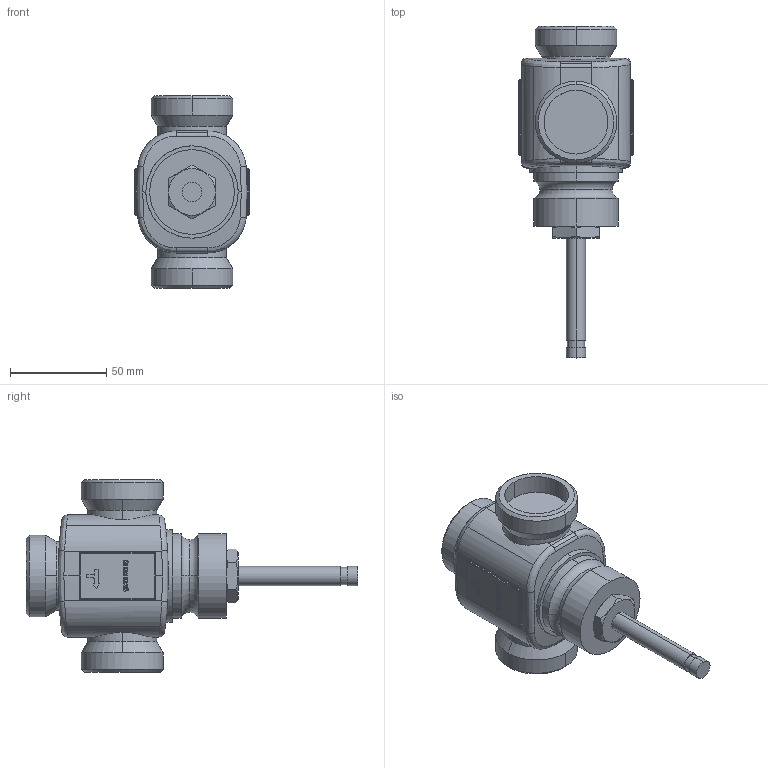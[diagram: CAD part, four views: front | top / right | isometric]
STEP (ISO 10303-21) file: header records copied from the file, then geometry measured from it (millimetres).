
FILE_DESCRIPTION((''),'2;1');
FILE_NAME('000301.dwg.stp','2006-10-23T13:46:25',(''),(''),'Mechanical Desktop 2006','Mechanical Desktop 2006',', , ');
FILE_SCHEMA(('AUTOMOTIVE_DESIGN { 1 2 10303 214 0 1 1 1 }'));
Length unit declared in the file: millimetre
Products named in the file (1): Product
Bounding box: 59.91 x 172.5 x 100 mm (x, y, z)
Volume: 278751.3 mm3; surface area: 44014.3 mm2
Topology: 22 solids, 22 shells, 527 faces, 1387 edges, 901 vertices
Faces by surface type: cylinder 250, plane 207, bspline 50, cone 8, sphere 8, torus 4
Entity records: 18436 total; most frequent: CARTESIAN_POINT 5264, DIRECTION 2768, ORIENTED_EDGE 2758, EDGE_CURVE 1379, AXIS2_PLACEMENT_3D 997, VERTEX_POINT 901, VECTOR 774, LINE 774
